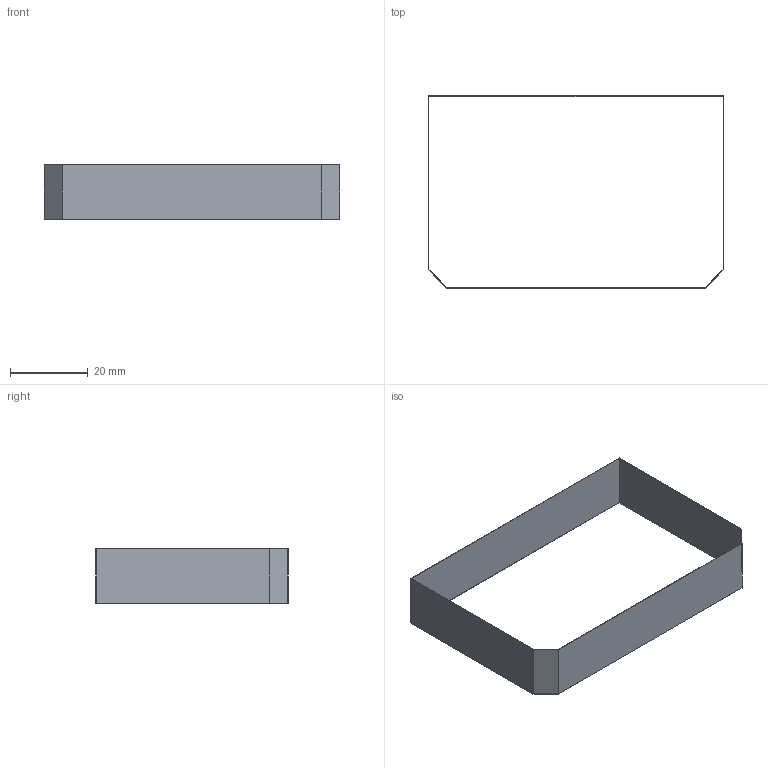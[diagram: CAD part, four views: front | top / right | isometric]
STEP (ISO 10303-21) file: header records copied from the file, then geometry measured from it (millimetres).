
FILE_DESCRIPTION(('Open CASCADE Model'),'2;1');
FILE_NAME('Open CASCADE Shape Model','2026-10-16T19:06:19',('Author'),( 'Open CASCADE'),'Open CASCADE STEP processor 7.9','Open CASCADE 7.9' ,'Unknown');
FILE_SCHEMA(('AUTOMOTIVE_DESIGN { 1 0 10303 214 1 1 1 1 }'));
Length unit declared in the file: millimetre
Products named in the file (2): Shield_Frame_76x49_3_Chamfer; metal
Assembly tree (1 placements, depth 2):
  Shield_Frame_76x49_3_Chamfer
    metal
Bounding box: 76.2 x 49.5 x 14 mm (x, y, z)
Volume: 686.6 mm3; surface area: 6964 mm2
Topology: 1 solids, 1 shells, 14 faces, 36 edges, 24 vertices
Faces by surface type: plane 14
Entity records: 905 total; most frequent: CARTESIAN_POINT 172, DIRECTION 116, LINE 84, VECTOR 84, ORIENTED_EDGE 72, PCURVE 72, DEFINITIONAL_REPRESENTATION 72, EDGE_CURVE 36
